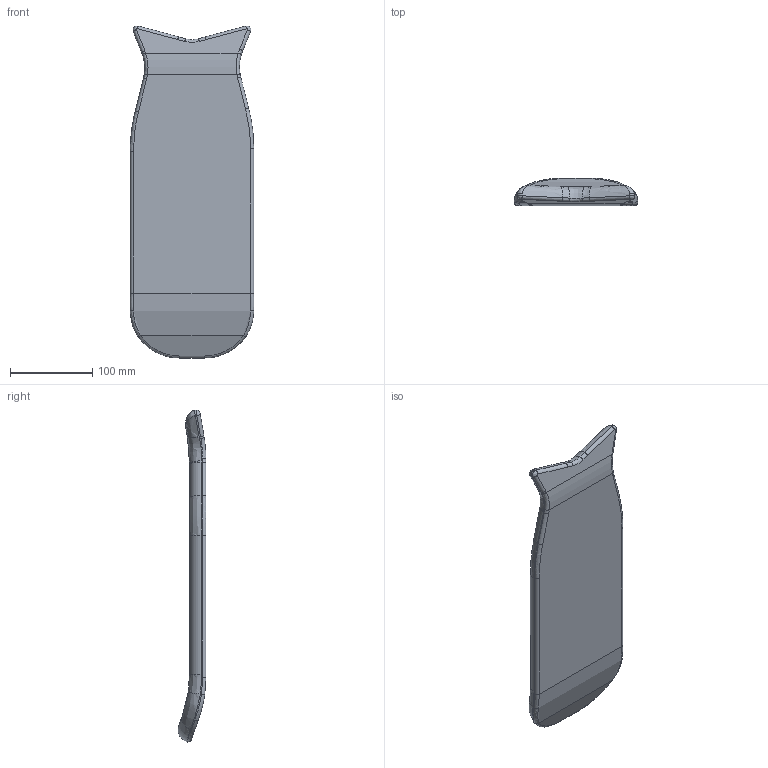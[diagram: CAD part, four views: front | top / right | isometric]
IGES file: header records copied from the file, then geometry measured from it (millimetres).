
Global section: file name: w16_skateboard v1; native system: unknown; preprocessor: unknown; author: leire.bereziartua; organization: unknown; date: 20180612.091322; units: millimetre
Bounding box: 150 x 33.97 x 403.24 mm (x, y, z)
Volume: 1053327.6 mm3; surface area: 122900.1 mm2
Topology: 1 solids, 1 shells, 82 faces, 188 edges, 106 vertices
Faces by surface type: bspline 82
